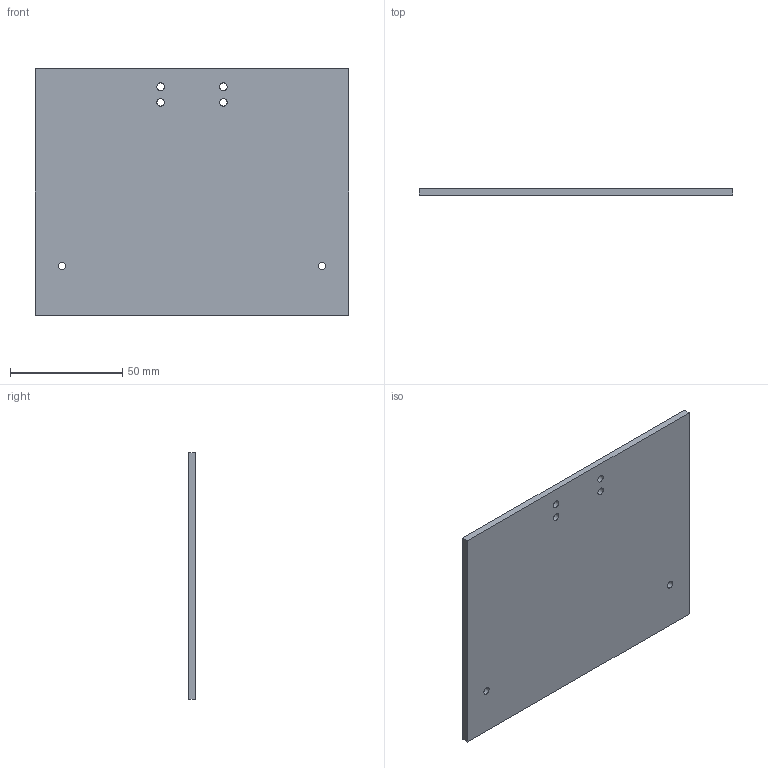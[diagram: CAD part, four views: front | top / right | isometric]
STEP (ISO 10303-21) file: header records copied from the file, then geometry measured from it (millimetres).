
FILE_DESCRIPTION(('Open CASCADE Model'),'2;1');
FILE_NAME('Open CASCADE Shape Model','2026-11-24T19:57:39',('Author'),( 'Open CASCADE'),'Open CASCADE STEP processor 7.8','Open CASCADE 7.8' ,'Unknown');
FILE_SCHEMA(('AUTOMOTIVE_DESIGN { 1 0 10303 214 1 1 1 1 }'));
Length unit declared in the file: millimetre
Products named in the file (1): Open CASCADE STEP translator 7.8 73
Bounding box: 140 x 3 x 110 mm (x, y, z)
Volume: 46039.7 mm3; surface area: 32383.5 mm2
Topology: 1 solids, 1 shells, 12 faces, 30 edges, 20 vertices
Faces by surface type: plane 6, cylinder 6
Full cylindrical faces by diameter (mm): 3.3 x2, 3.4 x4
Entity records: 784 total; most frequent: CARTESIAN_POINT 129, DIRECTION 122, ORIENTED_EDGE 60, LINE 60, VECTOR 60, PCURVE 60, DEFINITIONAL_REPRESENTATION 60, EDGE_CURVE 30
